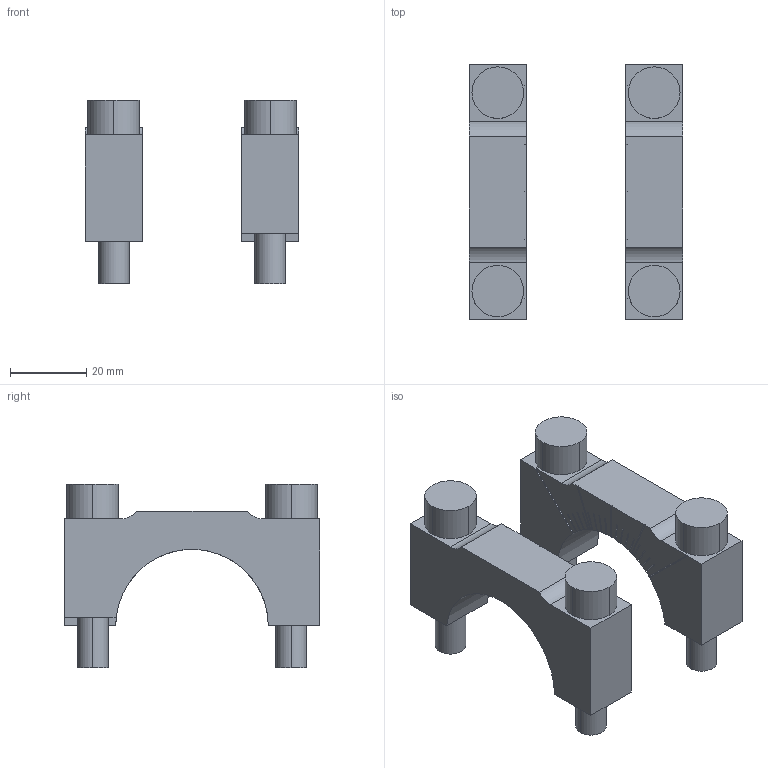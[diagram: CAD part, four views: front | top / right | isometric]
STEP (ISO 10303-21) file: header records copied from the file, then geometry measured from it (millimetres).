
FILE_DESCRIPTION(('STEP AP214'),'1');
FILE_NAME('EGT206_1720324_2X_SCHELLE_RD40.CATPart.stp','2015-09-14T13:13:08',('3D-Tool'),(' '),'Spatial InterOp 3D',' ',' ');
FILE_SCHEMA(('automotive_design'));
Length unit declared in the file: millimetre
Products named in the file (6): EGT206_1720324_2X_SCHELLE_RD40|EGT206_SCHELLE_RD40_2|Assemble.108; EGT206_1720324_2X_SCHELLE_RD40|EGT206_SCHELLE_RD40_1|Assemble.109; 1; 2; 3; 4
Bounding box: 56 x 67 x 48 mm (x, y, z)
Volume: 45633.7 mm3; surface area: 20578.4 mm2
Topology: 6 solids, 6 shells, 202 faces, 558 edges, 372 vertices
Faces by surface type: plane 156, cylinder 46
Entity records: 8293 total; most frequent: CARTESIAN_POINT 1390, ORIENTED_EDGE 1116, DIRECTION 1024, EDGE_CURVE 558, VERTEX_POINT 372, AXIS2_PLACEMENT_3D 342, LINE 340, VECTOR 340
